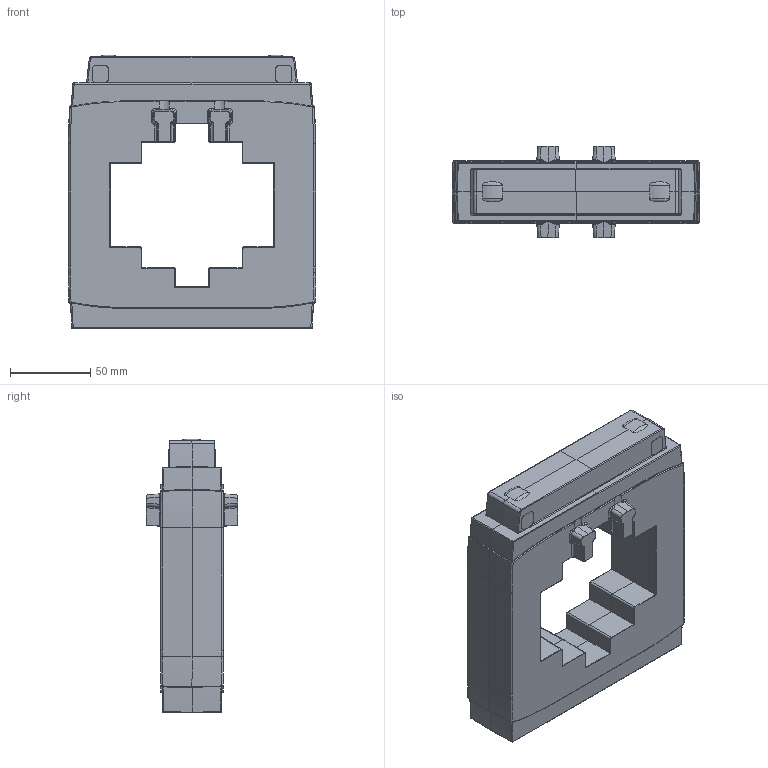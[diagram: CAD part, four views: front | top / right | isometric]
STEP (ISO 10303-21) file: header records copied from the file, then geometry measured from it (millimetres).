
FILE_DESCRIPTION(/* description */ (''),/* implementation_level */ '2;1');
FILE_NAME(/* name */ 'ENT.A100.stp',/* time_stamp */ '2021-03-18T11:55:12+03:00',/* author */ (''),/* organization */ (''),/* preprocessor_version */ 'ST-DEVELOPER v16',/* originating_system */ 'SIEMENS PLM Software NX 11.0',/* authorisation */ '');
FILE_SCHEMA (('AUTOMOTIVE_DESIGN { 1 0 10303 214 3 1 1 1 }'));
Length unit declared in the file: millimetre
Products named in the file (1): ENT.A100
Bounding box: 154 x 57 x 170.72 mm (x, y, z)
Volume: 681815.9 mm3; surface area: 77221.5 mm2
Topology: 1 solids, 1 shells, 553 faces, 1407 edges, 837 vertices
Faces by surface type: cylinder 206, plane 161, bspline 111, torus 28, cone 24, sphere 23
Entity records: 18454 total; most frequent: CARTESIAN_POINT 5945, ORIENTED_EDGE 2780, DIRECTION 2481, EDGE_CURVE 1390, AXIS2_PLACEMENT_3D 951, VERTEX_POINT 837, LINE 579, VECTOR 579
